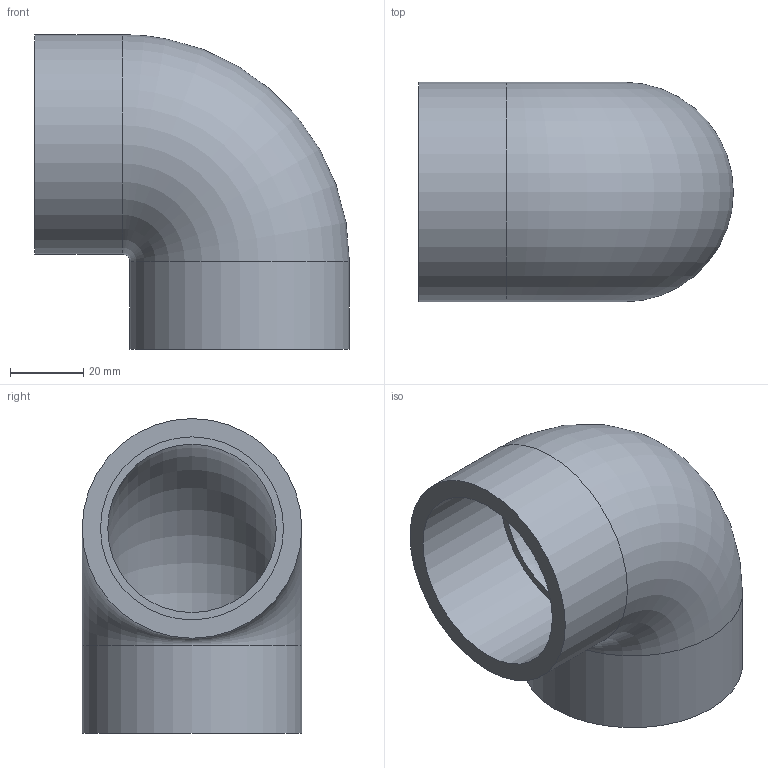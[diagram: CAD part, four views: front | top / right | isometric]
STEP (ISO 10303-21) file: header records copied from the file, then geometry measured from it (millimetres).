
FILE_DESCRIPTION(/* description */ ('PVC Elbow 90° solvent cement metric'),/* implementation_level */ '2;1');
FILE_NAME(/* name */ 'C:\Users\POLYPIPE\Desktop\DATASET INVENTOR\LIBRERIA EFFAST\RACCORDI 3DxWEB\RDR\3D_RDRGOD\3D_RDRGOD0500.stp',/* time_stamp */ '2018-01-19T14:27:42+01:00',/* author */ ('POLYPIPE'),/* organization */ ('Polypipe Italia s.r.l.'),/* preprocessor_version */ 'ST-DEVELOPER v16.1',/* originating_system */ 'Autodesk Inventor 2016',/* authorisation */ '');
FILE_SCHEMA (('CONFIG_CONTROL_DESIGN'));
Length unit declared in the file: millimetre
Products named in the file (1): 3D_RDRGOD
Bounding box: 86 x 60 x 86 mm (x, y, z)
Volume: 92156.1 mm3; surface area: 36180.5 mm2
Topology: 1 solids, 1 shells, 10 faces, 16 edges, 10 vertices
Faces by surface type: cylinder 4, plane 4, torus 2
Full cylindrical faces by diameter (mm): 50 x2, 60 x2
Entity records: 232 total; most frequent: DIRECTION 42, CARTESIAN_POINT 31, AXIS2_PLACEMENT_3D 21, EDGE_LOOP 20, ORIENTED_EDGE 20, FACE_BOUND 10, FACE_OUTER_BOUND 10, CIRCLE 10
